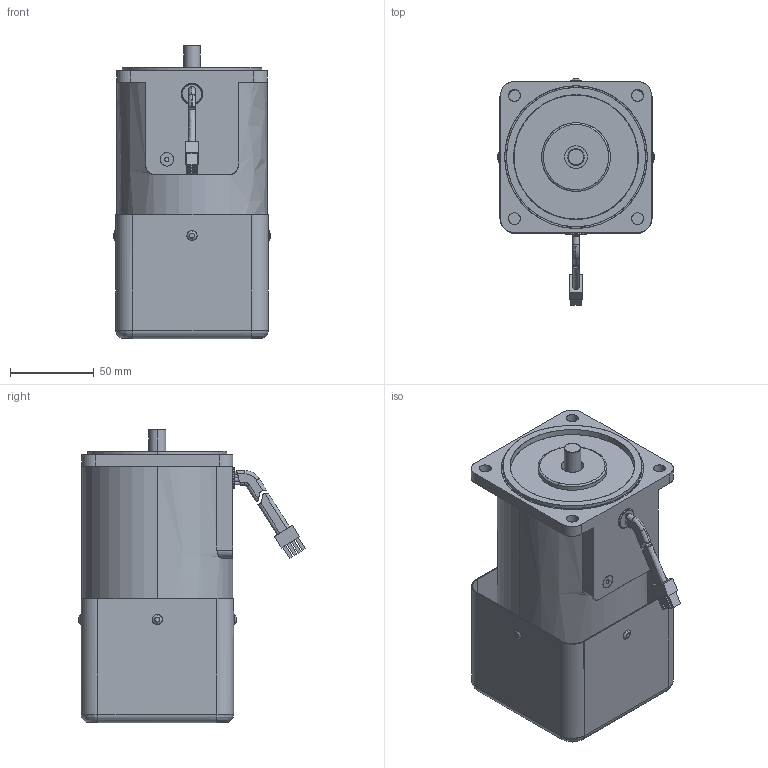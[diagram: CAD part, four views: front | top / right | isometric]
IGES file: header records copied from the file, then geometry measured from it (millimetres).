
Start section: SolidWorks IGES file using analytic representation for surfaces
Global section: file name: \\楷备家烹钦辑滚\data (D)\档搁 枚\权其捞瘤 档搁\7. SPEED INDUCTION\90\60W\(7-59) 9SDG∴-60F2W.IGS; native system: SolidWorks 2007; preprocessor: SolidWorks 2007; author: user; date: 150706.165240; units: millimetre
Bounding box: 94 x 135.4 x 175 mm (x, y, z)
Surface area: 168309.4 mm2 (no closed solid volume)
Topology: 0 solids, 0 shells, 396 faces, 7006 edges, 7006 vertices
Faces by surface type: revolution 240, bspline 156
